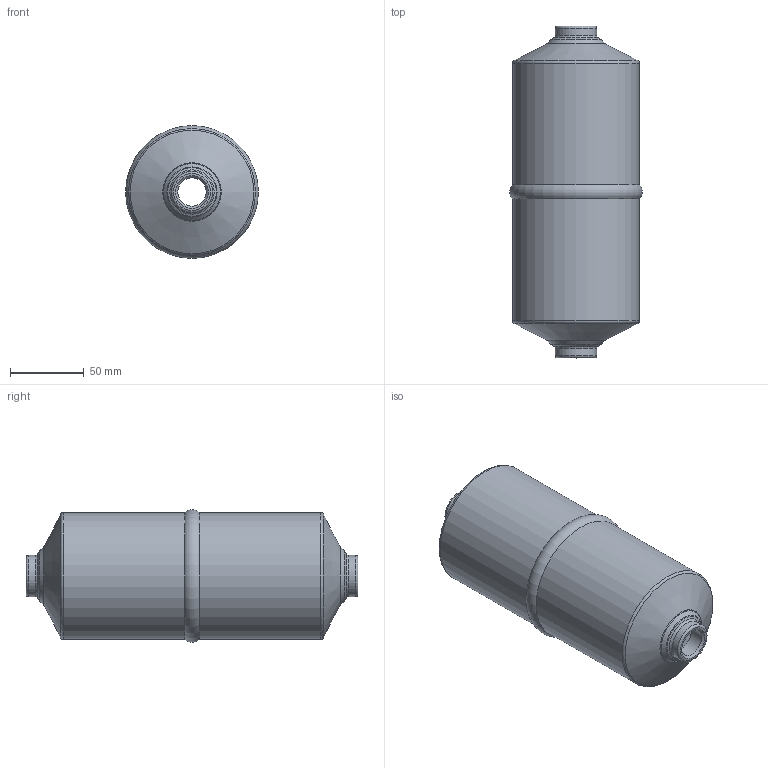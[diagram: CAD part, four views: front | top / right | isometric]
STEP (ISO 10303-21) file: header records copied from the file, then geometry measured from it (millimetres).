
FILE_DESCRIPTION(/* description */ (''),/* implementation_level */ '2;1');
FILE_NAME(/* name */ 'S:\_Tecnico\ArchivioUT\_Disegni3D ingombri\DISEGNI 3D per ingombri\SA\SA2U0010.stp',/* time_stamp */ '2021-09-14T13:58:22+02:00',/* author */ ('UfficioTecnico'),/* organization */ (''),/* preprocessor_version */ 'ST-DEVELOPER v18',/* originating_system */ 'Autodesk Inventor 2020',/* authorisation */ '');
FILE_SCHEMA (('AUTOMOTIVE_DESIGN { 1 0 10303 214 3 1 1 }'));
Length unit declared in the file: millimetre
Products named in the file (1): SA2U0010
Bounding box: 90 x 225 x 90 mm (x, y, z)
Volume: 277117.2 mm3; surface area: 113900.6 mm2
Topology: 1 solids, 1 shells, 30 faces, 106 edges, 78 vertices
Faces by surface type: torus 11, cone 10, cylinder 7, plane 2
Full cylindrical faces by diameter (mm): 19.172 x2, 28 x2, 76 x1, 86 x2
Entity records: 1280 total; most frequent: DIRECTION 257, CARTESIAN_POINT 215, ORIENTED_EDGE 212, AXIS2_PLACEMENT_3D 120, EDGE_CURVE 106, CIRCLE 89, VERTEX_POINT 78, EDGE_LOOP 32
